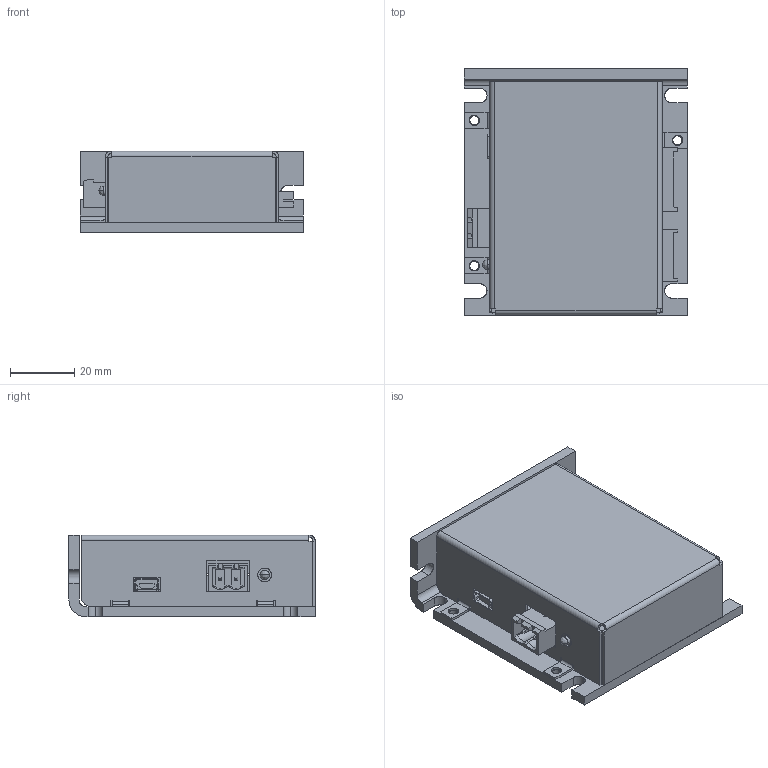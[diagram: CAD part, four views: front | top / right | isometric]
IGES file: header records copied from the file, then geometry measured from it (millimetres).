
Start section: SolidWorks IGES file using analytic representation for surfaces
Global section: file name: C:\Users\Engineering\Documents\Drawing\CAD\Arcus Enclosure\ACE-Assembly\ACE-SXE\ACE-SXE-external.IGS; native system: SolidWorks 2011; preprocessor: SolidWorks 2011; author: Engineering; date: 110801.100144; units: inch
Bounding box: 69.85 x 76.83 x 25.4 mm (x, y, z)
Surface area: 34846.2 mm2 (no closed solid volume)
Topology: 0 solids, 0 shells, 1345 faces, 9332 edges, 9314 vertices
Faces by surface type: bspline 1054, revolution 291
